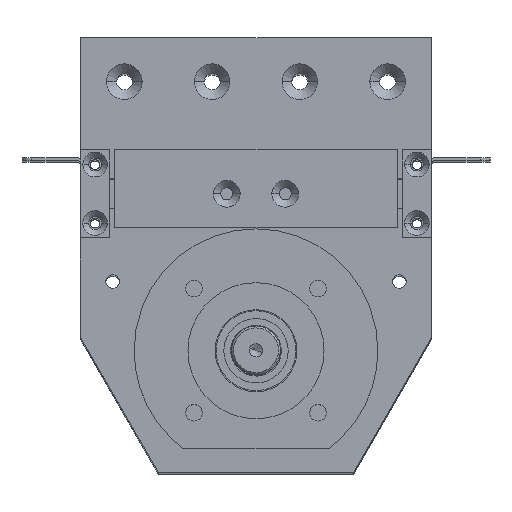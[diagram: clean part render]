
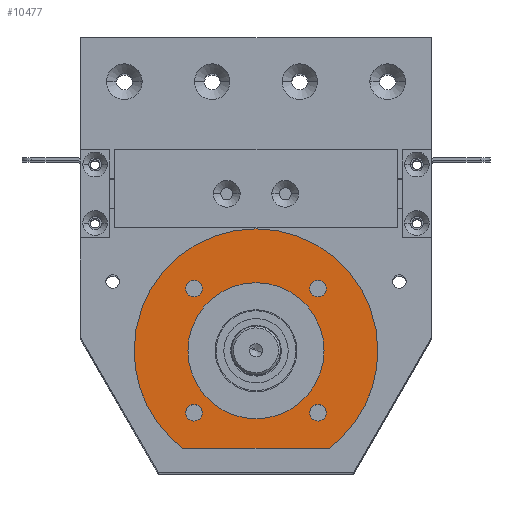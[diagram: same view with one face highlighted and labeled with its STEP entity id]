
A CAD part, top view. The second image highlights one B-rep face of the part: STEP entity #10477.
In plain terms, the highlighted planar face has unit normal (0, 0, 1) as drawn and (-1, 0, 0) by its records, which use the part's own axes.
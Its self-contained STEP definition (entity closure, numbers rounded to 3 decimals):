
#1073 = CARTESIAN_POINT ( 'NONE',  ( 2., -50., -37.5 ) ) ;
#1074 = CARTESIAN_POINT ( 'NONE',  ( 2., -50., 37.5 ) ) ;
#1076 = CARTESIAN_POINT ( 'NONE',  ( 2., 0., -62.5 ) ) ;
#1077 = CARTESIAN_POINT ( 'NONE',  ( 2., 0., 62.5 ) ) ;
#1084 = CARTESIAN_POINT ( 'NONE',  ( 2., 0., -34.9 ) ) ;
#1087 = CARTESIAN_POINT ( 'NONE',  ( 2., 0., 34.9 ) ) ;
#1111 = CARTESIAN_POINT ( 'NONE',  ( 2., 31.82, -36.07 ) ) ;
#1112 = CARTESIAN_POINT ( 'NONE',  ( 2., 31.82, -27.57 ) ) ;
#1116 = CARTESIAN_POINT ( 'NONE',  ( 2., 31.82, 27.57 ) ) ;
#1117 = CARTESIAN_POINT ( 'NONE',  ( 2., 31.82, 36.07 ) ) ;
#1122 = CARTESIAN_POINT ( 'NONE',  ( 2., -31.82, -36.07 ) ) ;
#1123 = CARTESIAN_POINT ( 'NONE',  ( 2., -31.82, 36.07 ) ) ;
#1124 = CARTESIAN_POINT ( 'NONE',  ( 2., -31.82, -27.57 ) ) ;
#1159 = CARTESIAN_POINT ( 'NONE',  ( 2., -31.82, 27.57 ) ) ;
#3656 = CARTESIAN_POINT ( 'NONE',  ( 2., -31.82, -31.82 ) ) ;
#3657 = DIRECTION ( 'NONE',  ( 1., 0., 0. ) ) ;
#3658 = DIRECTION ( 'NONE',  ( 0., 0., -1. ) ) ;
#3955 = CARTESIAN_POINT ( 'NONE',  ( 2., 0., 0. ) ) ;
#3956 = DIRECTION ( 'NONE',  ( -1., 0., 0. ) ) ;
#3957 = DIRECTION ( 'NONE',  ( 0., 0., 1. ) ) ;
#4431 = CARTESIAN_POINT ( 'NONE',  ( 2., -31.82, 31.82 ) ) ;
#4432 = DIRECTION ( 'NONE',  ( 1., 0., 0. ) ) ;
#4433 = DIRECTION ( 'NONE',  ( 0., 0., -1. ) ) ;
#4505 = VERTEX_POINT ( 'NONE', #1073 ) ;
#4506 = VERTEX_POINT ( 'NONE', #1074 ) ;
#4508 = VERTEX_POINT ( 'NONE', #1076 ) ;
#4509 = VERTEX_POINT ( 'NONE', #1077 ) ;
#4516 = VERTEX_POINT ( 'NONE', #1084 ) ;
#4519 = VERTEX_POINT ( 'NONE', #1087 ) ;
#4543 = VERTEX_POINT ( 'NONE', #1111 ) ;
#4544 = VERTEX_POINT ( 'NONE', #1112 ) ;
#4548 = VERTEX_POINT ( 'NONE', #1116 ) ;
#4549 = VERTEX_POINT ( 'NONE', #1117 ) ;
#4554 = VERTEX_POINT ( 'NONE', #1122 ) ;
#4555 = VERTEX_POINT ( 'NONE', #1123 ) ;
#4556 = VERTEX_POINT ( 'NONE', #1124 ) ;
#4914 = VERTEX_POINT ( 'NONE', #1159 ) ;
#5506 = EDGE_LOOP ( 'NONE', ( #9727, #9770 ) ) ;
#5509 = EDGE_LOOP ( 'NONE', ( #9678, #9689 ) ) ;
#5510 = EDGE_LOOP ( 'NONE', ( #9799, #9683 ) ) ;
#5511 = EDGE_LOOP ( 'NONE', ( #9705, #9707 ) ) ;
#5512 = EDGE_LOOP ( 'NONE', ( #9699, #9703 ) ) ;
#5513 = EDGE_LOOP ( 'NONE', ( #9713, #9721, #9734, #9742 ) ) ;
#6205 = CARTESIAN_POINT ( 'NONE',  ( 2., 0., 0. ) ) ;
#6206 = DIRECTION ( 'NONE',  ( -1., 0., 0. ) ) ;
#6207 = DIRECTION ( 'NONE',  ( 0., 0., 1. ) ) ;
#6730 = EDGE_CURVE ( 'NONE', #4506, #4505, #8170, .T. ) ;
#6734 = EDGE_CURVE ( 'NONE', #4554, #4556, #18085, .T. ) ;
#6735 = EDGE_CURVE ( 'NONE', #4914, #4555, #18087, .T. ) ;
#6754 = EDGE_CURVE ( 'NONE', #4543, #4544, #18112, .T. ) ;
#6755 = EDGE_CURVE ( 'NONE', #4548, #4549, #18102, .T. ) ;
#6756 = EDGE_CURVE ( 'NONE', #4516, #4519, #18097, .T. ) ;
#8168 = CARTESIAN_POINT ( 'NONE',  ( 2., -50., 37.5 ) ) ;
#8170 = LINE ( 'NONE', #8168, #18078 ) ;
#8174 = DIRECTION ( 'NONE',  ( 0., 0., -1. ) ) ;
#8186 = CARTESIAN_POINT ( 'NONE',  ( 2., -31.82, -31.82 ) ) ;
#8187 = DIRECTION ( 'NONE',  ( 1., 0., 0. ) ) ;
#8188 = DIRECTION ( 'NONE',  ( 0., 0., -1. ) ) ;
#8190 = CARTESIAN_POINT ( 'NONE',  ( 2., -31.82, 31.82 ) ) ;
#8191 = DIRECTION ( 'NONE',  ( 1., 0., 0. ) ) ;
#8192 = DIRECTION ( 'NONE',  ( 0., 0., -1. ) ) ;
#8274 = CARTESIAN_POINT ( 'NONE',  ( 2., 31.82, -31.82 ) ) ;
#8275 = DIRECTION ( 'NONE',  ( 1., 0., 0. ) ) ;
#8276 = DIRECTION ( 'NONE',  ( 0., 0., -1. ) ) ;
#8277 = CARTESIAN_POINT ( 'NONE',  ( 2., 31.82, 31.82 ) ) ;
#8278 = DIRECTION ( 'NONE',  ( 1., 0., 0. ) ) ;
#8279 = DIRECTION ( 'NONE',  ( 0., 0., -1. ) ) ;
#8281 = CARTESIAN_POINT ( 'NONE',  ( 2., 0., 0. ) ) ;
#8282 = DIRECTION ( 'NONE',  ( -1., 0., 0. ) ) ;
#8283 = DIRECTION ( 'NONE',  ( 0., 0., 1. ) ) ;
#8758 = CIRCLE ( 'NONE', #8767, 4.25 ) ;
#8767 = AXIS2_PLACEMENT_3D ( 'NONE', #16156, #16157, #16158 ) ;
#9678 = ORIENTED_EDGE ( 'NONE', *, *, #6755, .T. ) ;
#9683 = ORIENTED_EDGE ( 'NONE', *, *, #10928, .T. ) ;
#9689 = ORIENTED_EDGE ( 'NONE', *, *, #11014, .T. ) ;
#9699 = ORIENTED_EDGE ( 'NONE', *, *, #6754, .T. ) ;
#9703 = ORIENTED_EDGE ( 'NONE', *, *, #10552, .T. ) ;
#9705 = ORIENTED_EDGE ( 'NONE', *, *, #10813, .F. ) ;
#9707 = ORIENTED_EDGE ( 'NONE', *, *, #6756, .F. ) ;
#9713 = ORIENTED_EDGE ( 'NONE', *, *, #10964, .T. ) ;
#9721 = ORIENTED_EDGE ( 'NONE', *, *, #10440, .T. ) ;
#9727 = ORIENTED_EDGE ( 'NONE', *, *, #6734, .T. ) ;
#9734 = ORIENTED_EDGE ( 'NONE', *, *, #17153, .T. ) ;
#9742 = ORIENTED_EDGE ( 'NONE', *, *, #6730, .F. ) ;
#9770 = ORIENTED_EDGE ( 'NONE', *, *, #10736, .T. ) ;
#9799 = ORIENTED_EDGE ( 'NONE', *, *, #6735, .T. ) ;
#9854 = CIRCLE ( 'NONE', #9857, 4.25 ) ;
#9857 = AXIS2_PLACEMENT_3D ( 'NONE', #3656, #3657, #3658 ) ;
#9969 = CIRCLE ( 'NONE', #9972, 34.9 ) ;
#9972 = AXIS2_PLACEMENT_3D ( 'NONE', #3955, #3956, #3957 ) ;
#10440 = EDGE_CURVE ( 'NONE', #4509, #4508, #13391, .T. ) ;
#10477 = ADVANCED_FACE ( 'NONE', ( #15843, #15847, #15845, #15835, #15840, #15846 ), #15850, .F. ) ;
#10552 = EDGE_CURVE ( 'NONE', #4544, #4543, #8758, .T. ) ;
#10736 = EDGE_CURVE ( 'NONE', #4556, #4554, #9854, .T. ) ;
#10813 = EDGE_CURVE ( 'NONE', #4519, #4516, #9969, .T. ) ;
#10928 = EDGE_CURVE ( 'NONE', #4555, #4914, #19246, .T. ) ;
#10964 = EDGE_CURVE ( 'NONE', #4506, #4509, #19291, .T. ) ;
#11014 = EDGE_CURVE ( 'NONE', #4549, #4548, #19356, .T. ) ;
#13391 = CIRCLE ( 'NONE', #13396, 62.5 ) ;
#13396 = AXIS2_PLACEMENT_3D ( 'NONE', #15694, #15695, #15696 ) ;
#13442 = AXIS2_PLACEMENT_3D ( 'NONE', #15849, #15851, #15852 ) ;
#13732 = CARTESIAN_POINT ( 'NONE',  ( 2., 0., 0. ) ) ;
#13733 = DIRECTION ( 'NONE',  ( -1., 0., 0. ) ) ;
#13734 = DIRECTION ( 'NONE',  ( 0., 0., 1. ) ) ;
#13970 = CARTESIAN_POINT ( 'NONE',  ( 2., 31.82, 31.82 ) ) ;
#13971 = DIRECTION ( 'NONE',  ( 1., 0., 0. ) ) ;
#13972 = DIRECTION ( 'NONE',  ( 0., 0., -1. ) ) ;
#14964 = AXIS2_PLACEMENT_3D ( 'NONE', #6205, #6206, #6207 ) ;
#14972 = CIRCLE ( 'NONE', #14964, 62.5 ) ;
#15694 = CARTESIAN_POINT ( 'NONE',  ( 2., 0., 0. ) ) ;
#15695 = DIRECTION ( 'NONE',  ( -1., 0., 0. ) ) ;
#15696 = DIRECTION ( 'NONE',  ( 0., 0., 1. ) ) ;
#15835 = FACE_BOUND ( 'NONE', #5512, .T. ) ;
#15840 = FACE_BOUND ( 'NONE', #5511, .T. ) ;
#15843 = FACE_BOUND ( 'NONE', #5506, .T. ) ;
#15845 = FACE_BOUND ( 'NONE', #5509, .T. ) ;
#15846 = FACE_OUTER_BOUND ( 'NONE', #5513, .T. ) ;
#15847 = FACE_BOUND ( 'NONE', #5510, .T. ) ;
#15849 = CARTESIAN_POINT ( 'NONE',  ( 2., 62.5, 0. ) ) ;
#15850 = PLANE ( 'NONE',  #13442 ) ;
#15851 = DIRECTION ( 'NONE',  ( 1., 0., 0. ) ) ;
#15852 = DIRECTION ( 'NONE',  ( 0., 0., -1. ) ) ;
#16156 = CARTESIAN_POINT ( 'NONE',  ( 2., 31.82, -31.82 ) ) ;
#16157 = DIRECTION ( 'NONE',  ( 1., 0., 0. ) ) ;
#16158 = DIRECTION ( 'NONE',  ( 0., 0., -1. ) ) ;
#17153 = EDGE_CURVE ( 'NONE', #4508, #4505, #14972, .T. ) ;
#18078 = VECTOR ( 'NONE', #8174, 1000. ) ;
#18085 = CIRCLE ( 'NONE', #18090, 4.25 ) ;
#18087 = CIRCLE ( 'NONE', #18092, 4.25 ) ;
#18090 = AXIS2_PLACEMENT_3D ( 'NONE', #8186, #8187, #8188 ) ;
#18092 = AXIS2_PLACEMENT_3D ( 'NONE', #8190, #8191, #8192 ) ;
#18097 = CIRCLE ( 'NONE', #18121, 34.9 ) ;
#18099 = AXIS2_PLACEMENT_3D ( 'NONE', #8274, #8275, #8276 ) ;
#18102 = CIRCLE ( 'NONE', #18119, 4.25 ) ;
#18112 = CIRCLE ( 'NONE', #18099, 4.25 ) ;
#18119 = AXIS2_PLACEMENT_3D ( 'NONE', #8277, #8278, #8279 ) ;
#18121 = AXIS2_PLACEMENT_3D ( 'NONE', #8281, #8282, #8283 ) ;
#19242 = AXIS2_PLACEMENT_3D ( 'NONE', #4431, #4432, #4433 ) ;
#19246 = CIRCLE ( 'NONE', #19242, 4.25 ) ;
#19291 = CIRCLE ( 'NONE', #19295, 62.5 ) ;
#19295 = AXIS2_PLACEMENT_3D ( 'NONE', #13732, #13733, #13734 ) ;
#19356 = CIRCLE ( 'NONE', #19366, 4.25 ) ;
#19366 = AXIS2_PLACEMENT_3D ( 'NONE', #13970, #13971, #13972 ) ;
